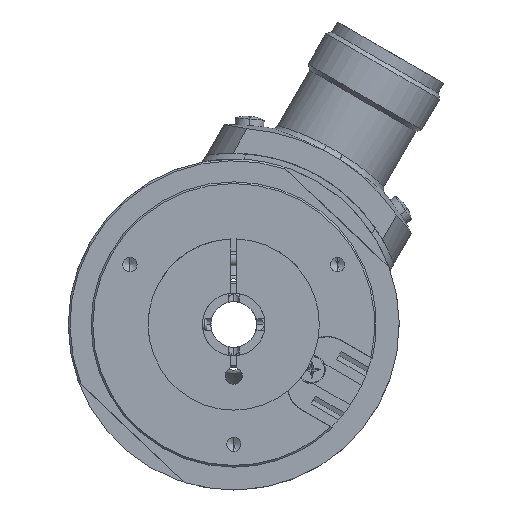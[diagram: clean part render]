
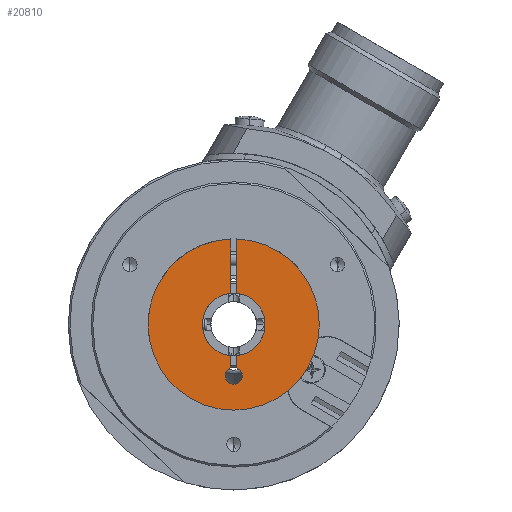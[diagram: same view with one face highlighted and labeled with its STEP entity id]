
A CAD part, left-side view. The second image highlights one B-rep face of the part: STEP entity #20810.
In plain terms, the highlighted planar face has unit normal (-1, 0, 0).
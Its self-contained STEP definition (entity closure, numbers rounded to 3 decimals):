
#7821 = CARTESIAN_POINT ( 'NONE',  ( -7.2, 0., -10.5 ) ) ;
#7872 = CARTESIAN_POINT ( 'NONE',  ( -7.2, -0.5, -7.586 ) ) ;
#7873 = DIRECTION ( 'NONE',  ( 0., 0., 1. ) ) ;
#7874 = DIRECTION ( 'NONE',  ( -1., 0., 0. ) ) ;
#7875 = CARTESIAN_POINT ( 'NONE',  ( -7.2, 0., -9. ) ) ;
#7876 = AXIS2_PLACEMENT_3D ( 'NONE', #7875, #7874, #7873 ) ;
#7877 = CIRCLE ( 'NONE', #7876, 1.5 ) ;
#7879 = LINE ( 'NONE', #7950, #7949 ) ;
#7947 = CARTESIAN_POINT ( 'NONE',  ( -7.2, 0.5, 5.477 ) ) ;
#7948 = DIRECTION ( 'NONE',  ( 0., 0., -1. ) ) ;
#7949 = VECTOR ( 'NONE', #7948, 1000. ) ;
#7950 = CARTESIAN_POINT ( 'NONE',  ( -7.2, 0.5, 5.477 ) ) ;
#7951 = CARTESIAN_POINT ( 'NONE',  ( -7.2, -0.5, 14.992 ) ) ;
#8013 = DIRECTION ( 'NONE',  ( 0., 0., 1. ) ) ;
#8014 = DIRECTION ( 'NONE',  ( 1., 0., 0. ) ) ;
#8015 = CARTESIAN_POINT ( 'NONE',  ( -7.2, 0., 0. ) ) ;
#8016 = AXIS2_PLACEMENT_3D ( 'NONE', #8015, #8014, #8013 ) ;
#8017 = CIRCLE ( 'NONE', #8016, 15. ) ;
#8020 = CARTESIAN_POINT ( 'NONE',  ( -7.2, 0.5, 14.992 ) ) ;
#8021 = DIRECTION ( 'NONE',  ( 0., 0., 1. ) ) ;
#8022 = DIRECTION ( 'NONE',  ( 1., 0., 0. ) ) ;
#8023 = CARTESIAN_POINT ( 'NONE',  ( -7.2, 0., 0. ) ) ;
#8024 = AXIS2_PLACEMENT_3D ( 'NONE', #8023, #8022, #8021 ) ;
#8025 = CIRCLE ( 'NONE', #8024, 15. ) ;
#8027 = CARTESIAN_POINT ( 'NONE',  ( -7.2, 0., -15. ) ) ;
#8091 = DIRECTION ( 'NONE',  ( 0., 0., 1. ) ) ;
#8092 = DIRECTION ( 'NONE',  ( -1., 0., 0. ) ) ;
#8093 = CARTESIAN_POINT ( 'NONE',  ( -7.2, 0., -9. ) ) ;
#8094 = AXIS2_PLACEMENT_3D ( 'NONE', #8093, #8092, #8091 ) ;
#8095 = CIRCLE ( 'NONE', #8094, 1.5 ) ;
#8123 = CARTESIAN_POINT ( 'NONE',  ( -7.2, -0.5, -5.477 ) ) ;
#8124 = DIRECTION ( 'NONE',  ( 0., 0., 1. ) ) ;
#8125 = VECTOR ( 'NONE', #8124, 1000. ) ;
#8126 = CARTESIAN_POINT ( 'NONE',  ( -7.2, -0.5, -7.586 ) ) ;
#8127 = LINE ( 'NONE', #8126, #8125 ) ;
#8154 = CARTESIAN_POINT ( 'NONE',  ( -7.2, 0.5, -7.586 ) ) ;
#8155 = DIRECTION ( 'NONE',  ( 0., 0., -1. ) ) ;
#8156 = VECTOR ( 'NONE', #8155, 1000. ) ;
#8157 = CARTESIAN_POINT ( 'NONE',  ( -7.2, 0.5, -7.586 ) ) ;
#8158 = LINE ( 'NONE', #8157, #8156 ) ;
#8177 = DIRECTION ( 'NONE',  ( -1., 0., 0. ) ) ;
#8178 = AXIS2_PLACEMENT_3D ( 'NONE', #8181, #8177, #8220 ) ;
#8179 = CIRCLE ( 'NONE', #8178, 5.5 ) ;
#8181 = CARTESIAN_POINT ( 'NONE',  ( -7.2, 0., 0. ) ) ;
#8219 = CARTESIAN_POINT ( 'NONE',  ( -7.2, 0.5, -5.477 ) ) ;
#8220 = DIRECTION ( 'NONE',  ( 0., 0., 1. ) ) ;
#8270 = DIRECTION ( 'NONE',  ( 0., 0., 1. ) ) ;
#8271 = VECTOR ( 'NONE', #8270, 1000. ) ;
#8272 = CARTESIAN_POINT ( 'NONE',  ( -7.2, -0.5, 5.477 ) ) ;
#8273 = LINE ( 'NONE', #8272, #8271 ) ;
#8291 = CARTESIAN_POINT ( 'NONE',  ( -7.2, -0.5, 5.477 ) ) ;
#8292 = DIRECTION ( 'NONE',  ( 0., 0., 1. ) ) ;
#8293 = DIRECTION ( 'NONE',  ( -1., 0., 0. ) ) ;
#8294 = CARTESIAN_POINT ( 'NONE',  ( -7.2, 0., 0. ) ) ;
#8295 = AXIS2_PLACEMENT_3D ( 'NONE', #8294, #8293, #8292 ) ;
#8300 = CIRCLE ( 'NONE', #8295, 5.5 ) ;
#8425 = PLANE ( 'NONE',  #8426 ) ;
#8426 = AXIS2_PLACEMENT_3D ( 'NONE', #8487, #8486, #8485 ) ;
#8446 = FACE_OUTER_BOUND ( 'NONE', #20811, .T. ) ;
#8485 = DIRECTION ( 'NONE',  ( 0., 0., 1. ) ) ;
#8486 = DIRECTION ( 'NONE',  ( 1., 0., 0. ) ) ;
#8487 = CARTESIAN_POINT ( 'NONE',  ( -7.2, 0., 0. ) ) ;
#20632 = VERTEX_POINT ( 'NONE', #7821 ) ;
#20634 = EDGE_CURVE ( 'NONE', #20632, #20635, #7877, .T. ) ;
#20635 = VERTEX_POINT ( 'NONE', #7872 ) ;
#20654 = EDGE_CURVE ( 'NONE', #20684, #20655, #7879, .T. ) ;
#20655 = VERTEX_POINT ( 'NONE', #7947 ) ;
#20668 = VERTEX_POINT ( 'NONE', #7951 ) ;
#20670 = EDGE_CURVE ( 'NONE', #20668, #20681, #8017, .T. ) ;
#20681 = VERTEX_POINT ( 'NONE', #8027 ) ;
#20683 = EDGE_CURVE ( 'NONE', #20681, #20684, #8025, .T. ) ;
#20684 = VERTEX_POINT ( 'NONE', #8020 ) ;
#20696 = EDGE_CURVE ( 'NONE', #20710, #20632, #8095, .T. ) ;
#20700 = EDGE_CURVE ( 'NONE', #20635, #20701, #8127, .T. ) ;
#20701 = VERTEX_POINT ( 'NONE', #8123 ) ;
#20709 = EDGE_CURVE ( 'NONE', #20726, #20710, #8158, .T. ) ;
#20710 = VERTEX_POINT ( 'NONE', #8154 ) ;
#20725 = EDGE_CURVE ( 'NONE', #20655, #20726, #8179, .T. ) ;
#20726 = VERTEX_POINT ( 'NONE', #8219 ) ;
#20735 = ORIENTED_EDGE ( 'NONE', *, *, #20770, .F. ) ;
#20736 = ORIENTED_EDGE ( 'NONE', *, *, #20700, .F. ) ;
#20737 = ORIENTED_EDGE ( 'NONE', *, *, #20634, .F. ) ;
#20738 = ORIENTED_EDGE ( 'NONE', *, *, #20696, .F. ) ;
#20739 = ORIENTED_EDGE ( 'NONE', *, *, #20709, .F. ) ;
#20740 = ORIENTED_EDGE ( 'NONE', *, *, #20725, .F. ) ;
#20760 = EDGE_CURVE ( 'NONE', #20771, #20668, #8273, .T. ) ;
#20770 = EDGE_CURVE ( 'NONE', #20701, #20771, #8300, .T. ) ;
#20771 = VERTEX_POINT ( 'NONE', #8291 ) ;
#20798 = ORIENTED_EDGE ( 'NONE', *, *, #20654, .F. ) ;
#20799 = ORIENTED_EDGE ( 'NONE', *, *, #20683, .F. ) ;
#20810 = ADVANCED_FACE ( 'NONE', ( #8446 ), #8425, .F. ) ;
#20811 = EDGE_LOOP ( 'NONE', ( #20812, #20813, #20735, #20736, #20737, #20738, #20739, #20740, #20798, #20799 ) ) ;
#20812 = ORIENTED_EDGE ( 'NONE', *, *, #20670, .F. ) ;
#20813 = ORIENTED_EDGE ( 'NONE', *, *, #20760, .F. ) ;
